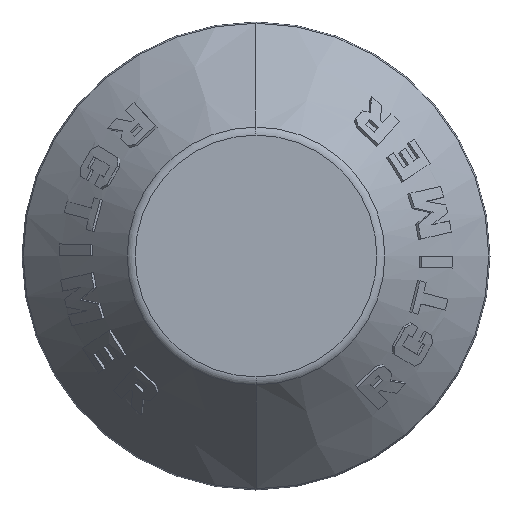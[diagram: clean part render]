
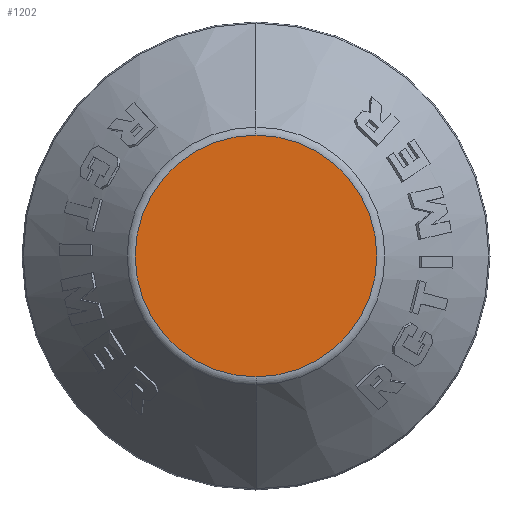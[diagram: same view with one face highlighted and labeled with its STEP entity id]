
A CAD part, left-side view. The second image highlights one B-rep face of the part: STEP entity #1202.
In plain terms, the highlighted planar face has unit normal (-1, 0, 0).
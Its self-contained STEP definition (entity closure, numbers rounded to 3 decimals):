
#295 = DIRECTION ( 'NONE',  ( -1., 0., 0. ) ) ;
#439 = EDGE_CURVE ( 'NONE', #2764, #6783, #3576, .T. ) ;
#747 = DIRECTION ( 'NONE',  ( 1., 0., 0. ) ) ;
#968 = EDGE_CURVE ( 'NONE', #6783, #2764, #1013, .T. ) ;
#1013 = CIRCLE ( 'NONE', #1698, 11.534 ) ;
#1202 = ADVANCED_FACE ( 'NONE', ( #5744 ), #6032, .F. ) ;
#1242 = AXIS2_PLACEMENT_3D ( 'NONE', #6724, #295, #3440 ) ;
#1696 = CARTESIAN_POINT ( 'NONE',  ( 0., 0., 11.534 ) ) ;
#1698 = AXIS2_PLACEMENT_3D ( 'NONE', #6390, #6353, #2688 ) ;
#2256 = ORIENTED_EDGE ( 'NONE', *, *, #968, .T. ) ;
#2688 = DIRECTION ( 'NONE',  ( 0., 0., -1. ) ) ;
#2764 = VERTEX_POINT ( 'NONE', #5767 ) ;
#2849 = DIRECTION ( 'NONE',  ( 0., 0., -1. ) ) ;
#2911 = AXIS2_PLACEMENT_3D ( 'NONE', #6656, #747, #2849 ) ;
#3440 = DIRECTION ( 'NONE',  ( 0., 0., -1. ) ) ;
#3576 = CIRCLE ( 'NONE', #1242, 11.534 ) ;
#5215 = ORIENTED_EDGE ( 'NONE', *, *, #439, .T. ) ;
#5744 = FACE_OUTER_BOUND ( 'NONE', #6407, .T. ) ;
#5767 = CARTESIAN_POINT ( 'NONE',  ( 0., 0., -11.534 ) ) ;
#6032 = PLANE ( 'NONE',  #2911 ) ;
#6353 = DIRECTION ( 'NONE',  ( -1., 0., 0. ) ) ;
#6390 = CARTESIAN_POINT ( 'NONE',  ( 0., 0., 0. ) ) ;
#6407 = EDGE_LOOP ( 'NONE', ( #5215, #2256 ) ) ;
#6656 = CARTESIAN_POINT ( 'NONE',  ( 0., 0., 0. ) ) ;
#6724 = CARTESIAN_POINT ( 'NONE',  ( 0., 0., 0. ) ) ;
#6783 = VERTEX_POINT ( 'NONE', #1696 ) ;
